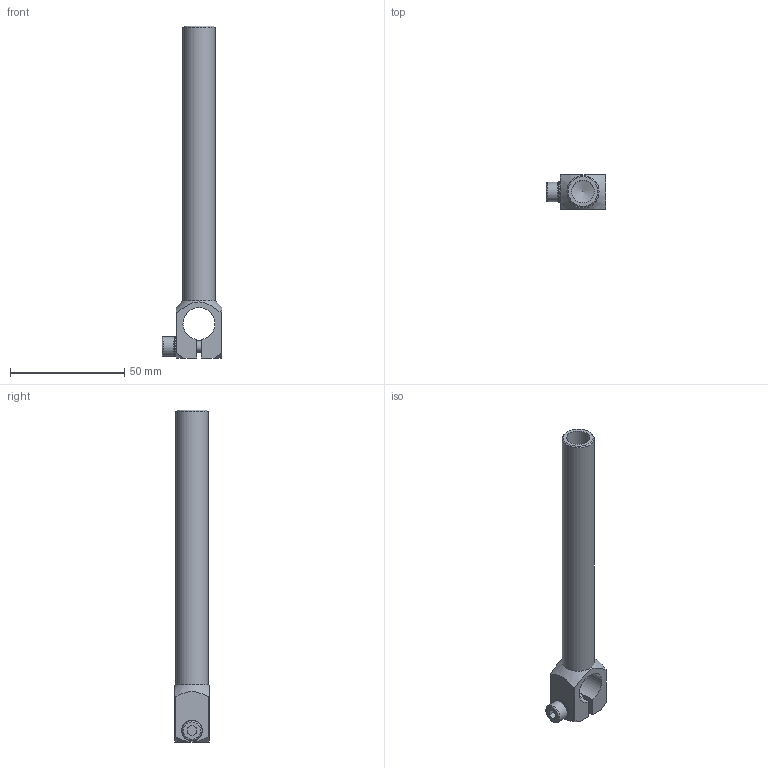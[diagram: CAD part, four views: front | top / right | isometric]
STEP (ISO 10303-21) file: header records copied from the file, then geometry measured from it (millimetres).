
FILE_DESCRIPTION(('STEP AP214'),'1');
FILE_NAME('CA.WKA.14.14.120.stp','2020-09-21T10:11:04',(' '),(' '),'Spatial InterOp 3D',' ',' ');
FILE_SCHEMA(('AUTOMOTIVE_DESIGN { 1 0 10303 214 1 1 1 1 }'));
Length unit declared in the file: millimetre
Products named in the file (4): CA.WKA.14.14.120; V.TCE5x20 ; R.5.SCH; WKA.14.14.120
Assembly tree (3 placements, depth 2):
  CA.WKA.14.14.120
    V.TCE5x20 
    R.5.SCH
    WKA.14.14.120
Bounding box: 26.1 x 15 x 145 mm (x, y, z)
Volume: 17103.8 mm3; surface area: 11353.3 mm2
Topology: 3 solids, 3 shells, 234 faces, 675 edges, 447 vertices
Faces by surface type: plane 211, cylinder 13, cone 8, torus 2
Full cylindrical faces by diameter (mm): 4.2 x1, 5 x1, 5.2 x1, 5.3 x1, 8.5 x1, 9 x1, 10 x1, 14 x1
Entity records: 9803 total; most frequent: CARTESIAN_POINT 1481, DIRECTION 1342, ORIENTED_EDGE 1312, EDGE_CURVE 656, AXIS2_PLACEMENT_3D 460, VERTEX_POINT 443, LINE 422, VECTOR 422
